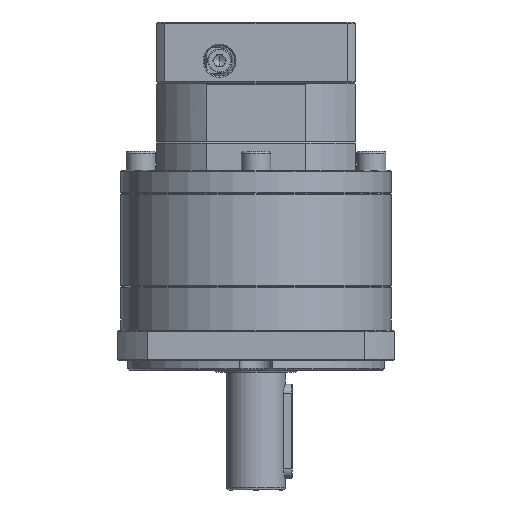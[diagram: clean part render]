
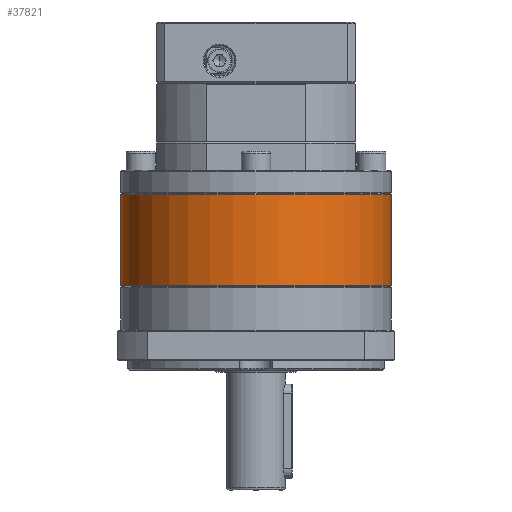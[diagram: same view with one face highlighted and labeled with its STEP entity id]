
A CAD part, front view. The second image highlights one B-rep face of the part: STEP entity #37821.
In plain terms, the highlighted cylindrical face has radius 57.5 mm (diameter 115 mm), a partial arc.
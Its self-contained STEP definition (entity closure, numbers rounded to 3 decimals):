
#29 = VERTEX_POINT ( 'NONE', #35582 ) ;
#9706 = VECTOR ( 'NONE', #55393, 1000. ) ;
#14012 = DIRECTION ( 'NONE',  ( 0., 0., -1. ) ) ;
#14882 = CARTESIAN_POINT ( 'NONE',  ( 46.593, 123.086, -17.259 ) ) ;
#18188 = EDGE_CURVE ( 'NONE', #45892, #102152, #56171, .T. ) ;
#19640 = EDGE_CURVE ( 'NONE', #29, #45892, #105778, .T. ) ;
#19984 = DIRECTION ( 'NONE',  ( 0., 0., 1. ) ) ;
#22591 = EDGE_LOOP ( 'NONE', ( #87938, #89234, #44596, #84601 ) ) ;
#25060 = DIRECTION ( 'NONE',  ( 0., 0., -1. ) ) ;
#30186 = CARTESIAN_POINT ( 'NONE',  ( 46.593, 123.086, -55.97 ) ) ;
#35582 = CARTESIAN_POINT ( 'NONE',  ( -10.907, 123.086, -17.259 ) ) ;
#35787 = AXIS2_PLACEMENT_3D ( 'NONE', #14882, #25060, #105923 ) ;
#37821 = ADVANCED_FACE ( 'NONE', ( #37968 ), #112206, .T. ) ;
#37968 = FACE_OUTER_BOUND ( 'NONE', #22591, .T. ) ;
#44596 = ORIENTED_EDGE ( 'NONE', *, *, #19640, .T. ) ;
#45254 = CARTESIAN_POINT ( 'NONE',  ( 104.093, 123.086, -16.759 ) ) ;
#45892 = VERTEX_POINT ( 'NONE', #109704 ) ;
#46917 = CARTESIAN_POINT ( 'NONE',  ( 104.093, 123.086, -55.97 ) ) ;
#49641 = CARTESIAN_POINT ( 'NONE',  ( 46.593, 123.086, -16.759 ) ) ;
#55393 = DIRECTION ( 'NONE',  ( 0., 0., -1. ) ) ;
#56171 = CIRCLE ( 'NONE', #102329, 57.5 ) ;
#58363 = VERTEX_POINT ( 'NONE', #78781 ) ;
#59370 = DIRECTION ( 'NONE',  ( -1., 0., 0. ) ) ;
#60181 = DIRECTION ( 'NONE',  ( -1., 0., 0. ) ) ;
#74032 = CARTESIAN_POINT ( 'NONE',  ( -10.907, 123.086, -16.759 ) ) ;
#78781 = CARTESIAN_POINT ( 'NONE',  ( 104.093, 123.086, -17.259 ) ) ;
#81868 = EDGE_CURVE ( 'NONE', #58363, #102152, #93453, .T. ) ;
#84601 = ORIENTED_EDGE ( 'NONE', *, *, #18188, .T. ) ;
#87938 = ORIENTED_EDGE ( 'NONE', *, *, #81868, .F. ) ;
#89234 = ORIENTED_EDGE ( 'NONE', *, *, #116939, .T. ) ;
#93453 = LINE ( 'NONE', #45254, #9706 ) ;
#96970 = AXIS2_PLACEMENT_3D ( 'NONE', #49641, #130055, #59370 ) ;
#102152 = VERTEX_POINT ( 'NONE', #46917 ) ;
#102329 = AXIS2_PLACEMENT_3D ( 'NONE', #30186, #19984, #60181 ) ;
#105778 = LINE ( 'NONE', #74032, #121631 ) ;
#105923 = DIRECTION ( 'NONE',  ( -1., 0., 0. ) ) ;
#109704 = CARTESIAN_POINT ( 'NONE',  ( -10.907, 123.086, -55.97 ) ) ;
#112206 = CYLINDRICAL_SURFACE ( 'NONE', #96970, 57.5 ) ;
#113144 = CIRCLE ( 'NONE', #35787, 57.5 ) ;
#116939 = EDGE_CURVE ( 'NONE', #58363, #29, #113144, .T. ) ;
#121631 = VECTOR ( 'NONE', #14012, 1000. ) ;
#130055 = DIRECTION ( 'NONE',  ( 0., 0., -1. ) ) ;
